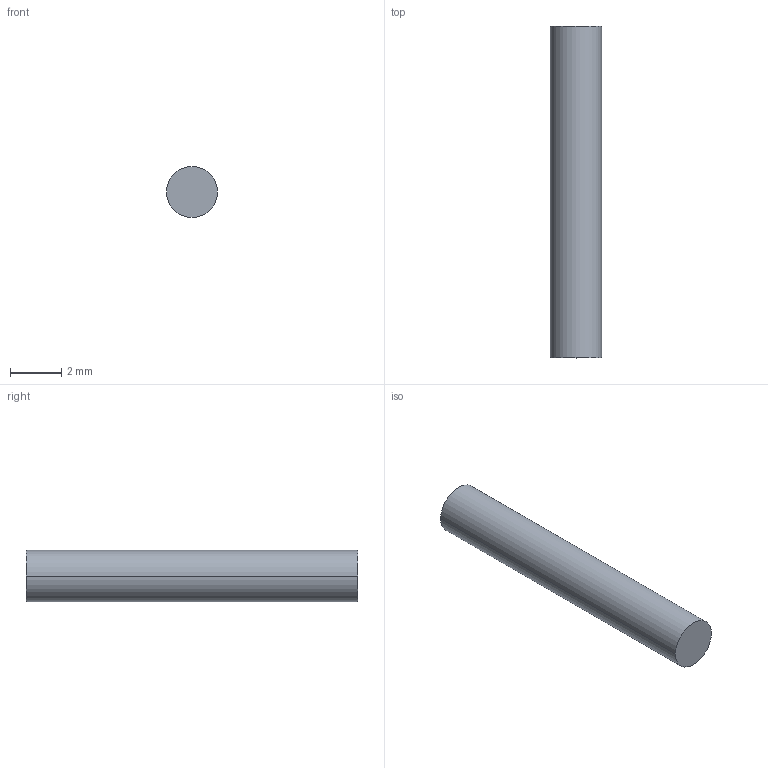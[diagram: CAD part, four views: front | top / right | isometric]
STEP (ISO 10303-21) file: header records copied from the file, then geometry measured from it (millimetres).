
FILE_DESCRIPTION((''),'2;1');
FILE_NAME('2MM00','2024-02-22T15:42:43',('qinghui.yi'),(''),'CREO PARAMETRIC BY PTC INC, 2019164','CREO PARAMETRIC BY PTC INC, 2019164','');
FILE_SCHEMA(('CONFIG_CONTROL_DESIGN','SHAPE_APPEARANCE_LAYERS_GROUPS'));
Length unit declared in the file: millimetre
Products named in the file (1): 2MM00
Bounding box: 2 x 13 x 2 mm (x, y, z)
Volume: 40.8 mm3; surface area: 88 mm2
Topology: 1 solids, 1 shells, 4 faces, 9 edges, 10 vertices
Faces by surface type: plane 2, cylinder 2
Entity records: 493 total; most frequent: COLOUR_RGB 312, DIRECTION 23, CARTESIAN_POINT 18, ORIENTED_EDGE 12, AXIS2_PLACEMENT_3D 9, DRAUGHTING_PRE_DEFINED_COLOUR 8, EDGE_CURVE 6, VECTOR 5
